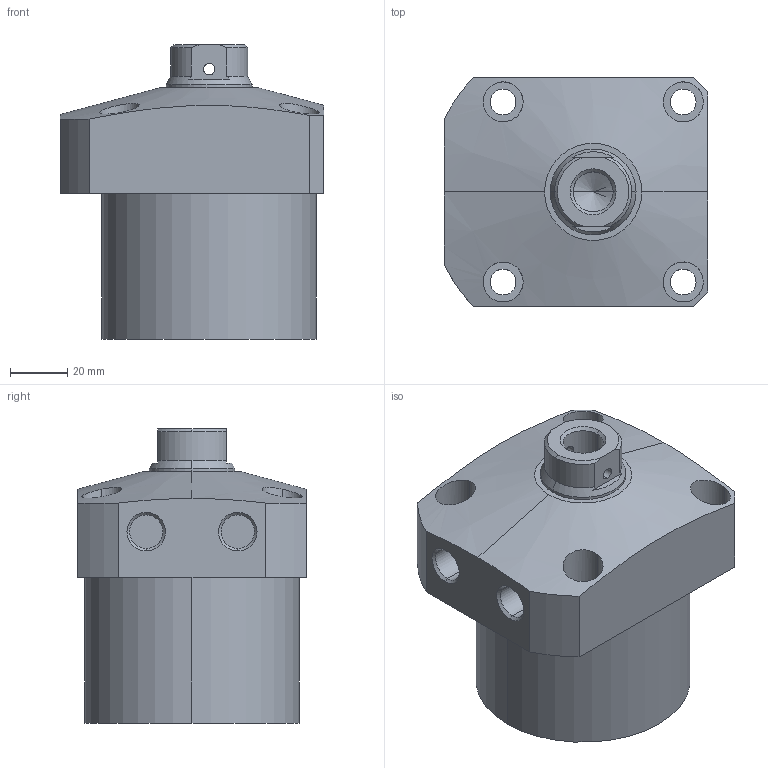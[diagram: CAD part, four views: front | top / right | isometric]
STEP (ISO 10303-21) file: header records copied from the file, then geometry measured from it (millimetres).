
FILE_DESCRIPTION (( 'STEP AP203' ), '1' );
FILE_NAME ('CLL-075CB-035.STEP', '2019-12-20T06:05:47', ( '' ), ( '' ), 'SwSTEP 2.0', 'SolidWorks 2015', '' );
FILE_SCHEMA (( 'CONFIG_CONTROL_DESIGN' ));
Length unit declared in the file: millimetre
Products named in the file (1): CLL-075CB-035
Bounding box: 92 x 80 x 103 mm (x, y, z)
Volume: 447881.8 mm3; surface area: 43371.2 mm2
Topology: 1 solids, 1 shells, 76 faces, 181 edges, 116 vertices
Faces by surface type: cylinder 39, plane 22, cone 15
Entity records: 2809 total; most frequent: CARTESIAN_POINT 932, DIRECTION 386, ORIENTED_EDGE 358, EDGE_CURVE 179, AXIS2_PLACEMENT_3D 158, VERTEX_POINT 116, EDGE_LOOP 99, CIRCLE 81
